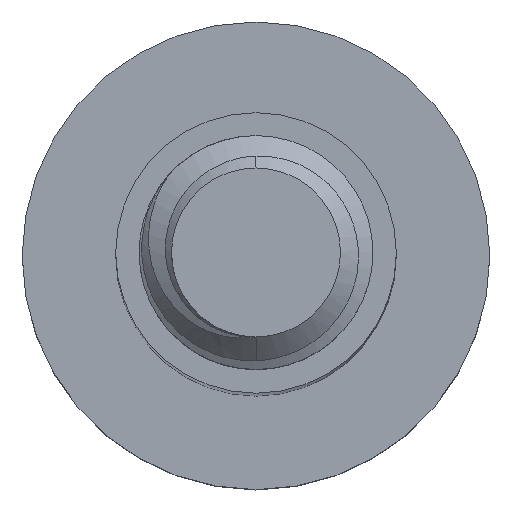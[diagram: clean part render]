
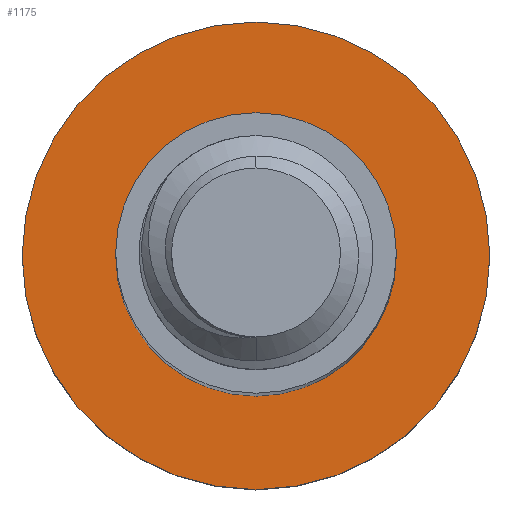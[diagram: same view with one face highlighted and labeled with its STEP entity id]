
A CAD part, top view. The second image highlights one B-rep face of the part: STEP entity #1175.
In plain terms, the highlighted planar face has unit normal (0, 0, 1).
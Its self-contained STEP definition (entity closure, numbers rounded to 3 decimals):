
#3 = VERTEX_POINT ( 'NONE', #1035 ) ;
#41 = CIRCLE ( 'NONE', #1702, 3. ) ;
#76 = DIRECTION ( 'NONE',  ( 0., 0., -1. ) ) ;
#110 = DIRECTION ( 'NONE',  ( 0., 0., -1. ) ) ;
#221 = EDGE_CURVE ( 'NONE', #1302, #3, #865, .T. ) ;
#446 = PLANE ( 'NONE',  #2149 ) ;
#458 = CIRCLE ( 'NONE', #569, 5. ) ;
#464 = CARTESIAN_POINT ( 'NONE',  ( 0., 0., -35. ) ) ;
#569 = AXIS2_PLACEMENT_3D ( 'NONE', #464, #110, #1189 ) ;
#617 = EDGE_CURVE ( 'NONE', #2048, #2106, #1720, .T. ) ;
#672 = CARTESIAN_POINT ( 'NONE',  ( 5., 0., -35. ) ) ;
#673 = CARTESIAN_POINT ( 'NONE',  ( 0., 0., -35. ) ) ;
#746 = CARTESIAN_POINT ( 'NONE',  ( 0., 0., -35. ) ) ;
#762 = DIRECTION ( 'NONE',  ( 0., 0., -1. ) ) ;
#796 = AXIS2_PLACEMENT_3D ( 'NONE', #673, #2324, #1781 ) ;
#865 = CIRCLE ( 'NONE', #1759, 3. ) ;
#959 = EDGE_CURVE ( 'NONE', #2106, #2048, #458, .T. ) ;
#976 = CARTESIAN_POINT ( 'NONE',  ( 0., 0., -35. ) ) ;
#1035 = CARTESIAN_POINT ( 'NONE',  ( 3., 0., -35. ) ) ;
#1087 = DIRECTION ( 'NONE',  ( 0., 0., -1. ) ) ;
#1149 = FACE_BOUND ( 'NONE', #1841, .T. ) ;
#1175 = ADVANCED_FACE ( 'NONE', ( #1149, #2254 ), #446, .F. ) ;
#1189 = DIRECTION ( 'NONE',  ( -1., 0., 0. ) ) ;
#1302 = VERTEX_POINT ( 'NONE', #2290 ) ;
#1446 = CARTESIAN_POINT ( 'NONE',  ( 0., 0., -35. ) ) ;
#1472 = ORIENTED_EDGE ( 'NONE', *, *, #959, .F. ) ;
#1669 = EDGE_CURVE ( 'NONE', #3, #1302, #41, .T. ) ;
#1702 = AXIS2_PLACEMENT_3D ( 'NONE', #1446, #1087, #2193 ) ;
#1716 = DIRECTION ( 'NONE',  ( -1., 0., 0. ) ) ;
#1720 = CIRCLE ( 'NONE', #796, 5. ) ;
#1759 = AXIS2_PLACEMENT_3D ( 'NONE', #746, #762, #2009 ) ;
#1781 = DIRECTION ( 'NONE',  ( -1., 0., 0. ) ) ;
#1836 = ORIENTED_EDGE ( 'NONE', *, *, #1669, .T. ) ;
#1841 = EDGE_LOOP ( 'NONE', ( #1899, #1836 ) ) ;
#1867 = CARTESIAN_POINT ( 'NONE',  ( -5., 0., -35. ) ) ;
#1899 = ORIENTED_EDGE ( 'NONE', *, *, #221, .T. ) ;
#1908 = EDGE_LOOP ( 'NONE', ( #2150, #1472 ) ) ;
#2009 = DIRECTION ( 'NONE',  ( -1., 0., 0. ) ) ;
#2048 = VERTEX_POINT ( 'NONE', #672 ) ;
#2106 = VERTEX_POINT ( 'NONE', #1867 ) ;
#2149 = AXIS2_PLACEMENT_3D ( 'NONE', #976, #76, #1716 ) ;
#2150 = ORIENTED_EDGE ( 'NONE', *, *, #617, .F. ) ;
#2193 = DIRECTION ( 'NONE',  ( -1., 0., 0. ) ) ;
#2254 = FACE_OUTER_BOUND ( 'NONE', #1908, .T. ) ;
#2290 = CARTESIAN_POINT ( 'NONE',  ( -3., 0., -35. ) ) ;
#2324 = DIRECTION ( 'NONE',  ( 0., 0., -1. ) ) ;
